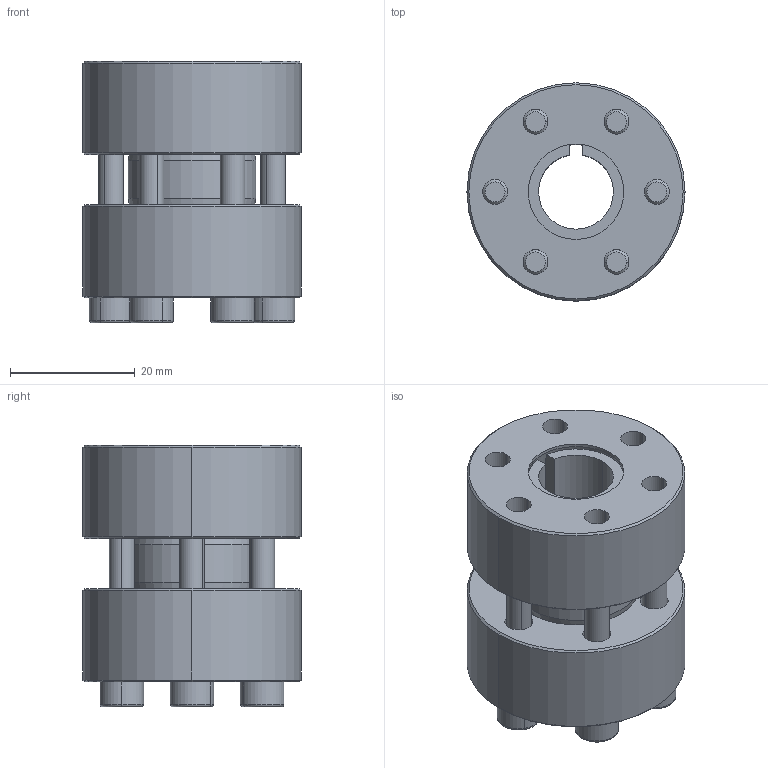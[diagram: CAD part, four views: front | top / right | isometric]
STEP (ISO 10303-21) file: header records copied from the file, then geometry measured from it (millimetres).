
FILE_DESCRIPTION (( 'STEP AP214' ), '1' );
FILE_NAME ('CONEX-M-12x35-M-003.step', '2014-07-01T12:12:21', ( 'Pc' ), ( '' ), 'SwSTEP 2.0', 'SolidWorks 2013', '' );
FILE_SCHEMA (( 'AUTOMOTIVE_DESIGN' ));
Length unit declared in the file: millimetre
Products named in the file (1): CONEX-M-12x35-M-003
Bounding box: 35 x 35 x 42.02 mm (x, y, z)
Volume: 27307.6 mm3; surface area: 16838.2 mm2
Topology: 9 solids, 9 shells, 226 faces, 506 edges, 298 vertices
Faces by surface type: plane 98, cylinder 62, cone 42, torus 24
Entity records: 8822 total; most frequent: DIRECTION 1182, CARTESIAN_POINT 1037, ORIENTED_EDGE 988, EDGE_CURVE 494, AXIS2_PLACEMENT_3D 465, VERTEX_POINT 298, EDGE_LOOP 266, VECTOR 252
